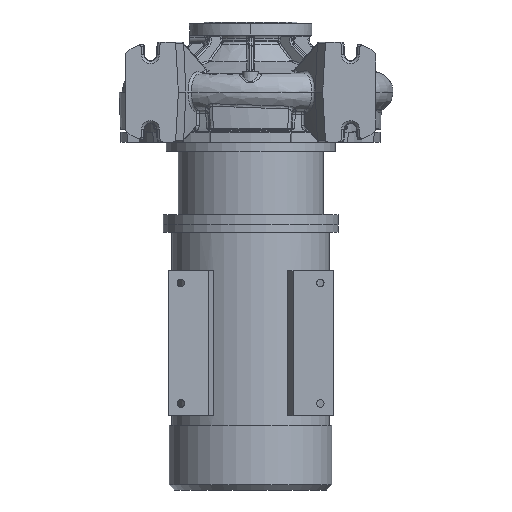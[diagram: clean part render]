
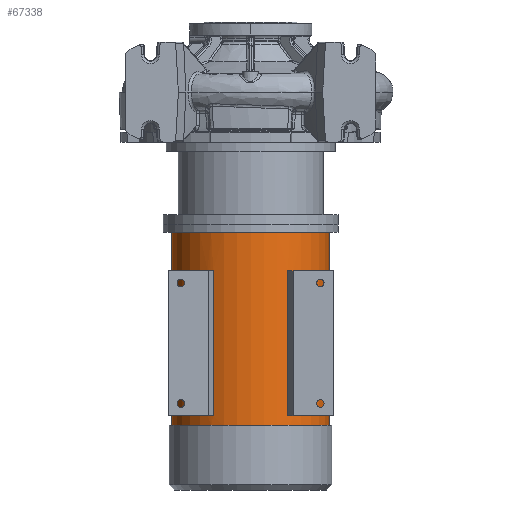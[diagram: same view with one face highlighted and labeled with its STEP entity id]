
A CAD part, front view. The second image highlights one B-rep face of the part: STEP entity #67338.
In plain terms, the highlighted cylindrical face has radius 157.5 mm (diameter 315 mm), a partial arc.
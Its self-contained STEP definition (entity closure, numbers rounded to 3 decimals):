
#1291 = ORIENTED_EDGE ( 'NONE', *, *, #35918, .T. ) ;
#1352 = EDGE_LOOP ( 'NONE', ( #90240, #71976, #87561, #42502 ) ) ;
#1983 = CIRCLE ( 'NONE', #36071, 157.5 ) ;
#2699 = EDGE_CURVE ( 'NONE', #88704, #29702, #87474, .T. ) ;
#3376 = CARTESIAN_POINT ( 'NONE',  ( 157.5, 0., -666.8 ) ) ;
#3870 = VECTOR ( 'NONE', #59922, 1000. ) ;
#4071 = EDGE_CURVE ( 'NONE', #76882, #17348, #8045, .T. ) ;
#4202 = EDGE_LOOP ( 'NONE', ( #74825, #89623, #30327, #1291 ) ) ;
#5739 = LINE ( 'NONE', #31826, #58210 ) ;
#7449 = CIRCLE ( 'NONE', #51731, 157.5 ) ;
#7463 = CIRCLE ( 'NONE', #23800, 157.5 ) ;
#8045 = CIRCLE ( 'NONE', #38496, 157.5 ) ;
#10935 = DIRECTION ( 'NONE',  ( 0., 0., -1. ) ) ;
#10937 = DIRECTION ( 'NONE',  ( 0., 0., 1. ) ) ;
#11408 = CARTESIAN_POINT ( 'NONE',  ( 86.091, -131.889, -357.3 ) ) ;
#11541 = CARTESIAN_POINT ( 'NONE',  ( 0., 0., -357.3 ) ) ;
#12059 = CARTESIAN_POINT ( 'NONE',  ( -86.091, -131.889, -795.8 ) ) ;
#13233 = DIRECTION ( 'NONE',  ( 0., 0., -1. ) ) ;
#13844 = CARTESIAN_POINT ( 'NONE',  ( -157.5, 0., -795.8 ) ) ;
#14001 = CIRCLE ( 'NONE', #52394, 157.5 ) ;
#14153 = EDGE_CURVE ( 'NONE', #34200, #88704, #5739, .T. ) ;
#15236 = LINE ( 'NONE', #17016, #46502 ) ;
#15349 = FACE_BOUND ( 'NONE', #4202, .T. ) ;
#17016 = CARTESIAN_POINT ( 'NONE',  ( 157.5, 0., -795.8 ) ) ;
#17348 = VERTEX_POINT ( 'NONE', #60041 ) ;
#18679 = FACE_OUTER_BOUND ( 'NONE', #1352, .T. ) ;
#18712 = CARTESIAN_POINT ( 'NONE',  ( -86.091, -131.889, -647.3 ) ) ;
#19051 = DIRECTION ( 'NONE',  ( 0., 0., -1. ) ) ;
#19676 = DIRECTION ( 'NONE',  ( -1., 0., 0. ) ) ;
#20801 = VERTEX_POINT ( 'NONE', #44738 ) ;
#22552 = DIRECTION ( 'NONE',  ( 0., 0., -1. ) ) ;
#22947 = VECTOR ( 'NONE', #13233, 1000. ) ;
#23181 = CYLINDRICAL_SURFACE ( 'NONE', #43734, 157.5 ) ;
#23199 = VECTOR ( 'NONE', #34243, 1000. ) ;
#23800 = AXIS2_PLACEMENT_3D ( 'NONE', #11541, #10935, #40279 ) ;
#24311 = ORIENTED_EDGE ( 'NONE', *, *, #68564, .F. ) ;
#25437 = FACE_BOUND ( 'NONE', #68138, .T. ) ;
#25751 = CARTESIAN_POINT ( 'NONE',  ( 74.479, -138.777, -647.3 ) ) ;
#25826 = EDGE_CURVE ( 'NONE', #75848, #20801, #7449, .T. ) ;
#26644 = CARTESIAN_POINT ( 'NONE',  ( -74.479, -138.777, -647.3 ) ) ;
#27017 = DIRECTION ( 'NONE',  ( -1., 0., 0. ) ) ;
#27497 = CARTESIAN_POINT ( 'NONE',  ( 86.091, -131.889, -647.3 ) ) ;
#28555 = EDGE_CURVE ( 'NONE', #34200, #49205, #14001, .T. ) ;
#29702 = VERTEX_POINT ( 'NONE', #11408 ) ;
#30327 = ORIENTED_EDGE ( 'NONE', *, *, #2699, .T. ) ;
#31826 = CARTESIAN_POINT ( 'NONE',  ( 74.479, -138.777, -795.8 ) ) ;
#33563 = VERTEX_POINT ( 'NONE', #70314 ) ;
#33878 = DIRECTION ( 'NONE',  ( 0., 0., -1. ) ) ;
#34152 = ORIENTED_EDGE ( 'NONE', *, *, #76361, .T. ) ;
#34200 = VERTEX_POINT ( 'NONE', #25751 ) ;
#34243 = DIRECTION ( 'NONE',  ( 0., 0., -1. ) ) ;
#34437 = CARTESIAN_POINT ( 'NONE',  ( 74.479, -138.777, -357.3 ) ) ;
#35918 = EDGE_CURVE ( 'NONE', #29702, #49205, #48550, .T. ) ;
#36071 = AXIS2_PLACEMENT_3D ( 'NONE', #58410, #22552, #43757 ) ;
#36452 = VERTEX_POINT ( 'NONE', #85775 ) ;
#38130 = CARTESIAN_POINT ( 'NONE',  ( 0., 0., -647.3 ) ) ;
#38285 = DIRECTION ( 'NONE',  ( 0., 0., -1. ) ) ;
#38496 = AXIS2_PLACEMENT_3D ( 'NONE', #76473, #19051, #19676 ) ;
#40279 = DIRECTION ( 'NONE',  ( 1., 0., 0. ) ) ;
#42502 = ORIENTED_EDGE ( 'NONE', *, *, #25826, .F. ) ;
#43734 = AXIS2_PLACEMENT_3D ( 'NONE', #68822, #76009, #83173 ) ;
#43757 = DIRECTION ( 'NONE',  ( 1., 0., 0. ) ) ;
#44591 = DIRECTION ( 'NONE',  ( 0., 0., 1. ) ) ;
#44738 = CARTESIAN_POINT ( 'NONE',  ( -157.5, 0., -666.8 ) ) ;
#45175 = VECTOR ( 'NONE', #51848, 1000. ) ;
#45628 = CARTESIAN_POINT ( 'NONE',  ( 86.091, -131.889, -795.8 ) ) ;
#46502 = VECTOR ( 'NONE', #38285, 1000. ) ;
#48550 = LINE ( 'NONE', #45628, #3870 ) ;
#49205 = VERTEX_POINT ( 'NONE', #27497 ) ;
#49638 = LINE ( 'NONE', #92058, #45175 ) ;
#49811 = EDGE_CURVE ( 'NONE', #76882, #75848, #15236, .T. ) ;
#51731 = AXIS2_PLACEMENT_3D ( 'NONE', #62255, #33878, #27017 ) ;
#51749 = DIRECTION ( 'NONE',  ( -1., 0., 0. ) ) ;
#51848 = DIRECTION ( 'NONE',  ( 0., 0., 1. ) ) ;
#52394 = AXIS2_PLACEMENT_3D ( 'NONE', #38130, #10937, #66532 ) ;
#52717 = EDGE_CURVE ( 'NONE', #17348, #20801, #70910, .T. ) ;
#58210 = VECTOR ( 'NONE', #60770, 1000. ) ;
#58410 = CARTESIAN_POINT ( 'NONE',  ( 0., 0., -647.3 ) ) ;
#59922 = DIRECTION ( 'NONE',  ( 0., 0., -1. ) ) ;
#60041 = CARTESIAN_POINT ( 'NONE',  ( -157.5, 0., -280.8 ) ) ;
#60770 = DIRECTION ( 'NONE',  ( 0., 0., 1. ) ) ;
#61101 = LINE ( 'NONE', #12059, #23199 ) ;
#62255 = CARTESIAN_POINT ( 'NONE',  ( 0., 0., -666.8 ) ) ;
#65525 = CARTESIAN_POINT ( 'NONE',  ( 0., 0., -357.3 ) ) ;
#65921 = ORIENTED_EDGE ( 'NONE', *, *, #69989, .F. ) ;
#66532 = DIRECTION ( 'NONE',  ( -1., 0., 0. ) ) ;
#67338 = ADVANCED_FACE ( 'NONE', ( #18679, #15349, #25437 ), #23181, .T. ) ;
#68138 = EDGE_LOOP ( 'NONE', ( #73920, #34152, #65921, #24311 ) ) ;
#68564 = EDGE_CURVE ( 'NONE', #36452, #33563, #7463, .T. ) ;
#68822 = CARTESIAN_POINT ( 'NONE',  ( 0., 0., -795.8 ) ) ;
#69989 = EDGE_CURVE ( 'NONE', #33563, #80679, #61101, .T. ) ;
#70314 = CARTESIAN_POINT ( 'NONE',  ( -86.091, -131.889, -357.3 ) ) ;
#70617 = VERTEX_POINT ( 'NONE', #26644 ) ;
#70910 = LINE ( 'NONE', #13844, #22947 ) ;
#71976 = ORIENTED_EDGE ( 'NONE', *, *, #4071, .T. ) ;
#73920 = ORIENTED_EDGE ( 'NONE', *, *, #85257, .F. ) ;
#74825 = ORIENTED_EDGE ( 'NONE', *, *, #28555, .F. ) ;
#75848 = VERTEX_POINT ( 'NONE', #3376 ) ;
#76009 = DIRECTION ( 'NONE',  ( 0., 0., -1. ) ) ;
#76361 = EDGE_CURVE ( 'NONE', #70617, #80679, #1983, .T. ) ;
#76473 = CARTESIAN_POINT ( 'NONE',  ( 0., 0., -280.8 ) ) ;
#76882 = VERTEX_POINT ( 'NONE', #87919 ) ;
#80679 = VERTEX_POINT ( 'NONE', #18712 ) ;
#83173 = DIRECTION ( 'NONE',  ( -1., 0., 0. ) ) ;
#85257 = EDGE_CURVE ( 'NONE', #70617, #36452, #49638, .T. ) ;
#85775 = CARTESIAN_POINT ( 'NONE',  ( -74.479, -138.777, -357.3 ) ) ;
#87474 = CIRCLE ( 'NONE', #88608, 157.5 ) ;
#87561 = ORIENTED_EDGE ( 'NONE', *, *, #52717, .T. ) ;
#87919 = CARTESIAN_POINT ( 'NONE',  ( 157.5, 0., -280.8 ) ) ;
#88608 = AXIS2_PLACEMENT_3D ( 'NONE', #65525, #44591, #51749 ) ;
#88704 = VERTEX_POINT ( 'NONE', #34437 ) ;
#89623 = ORIENTED_EDGE ( 'NONE', *, *, #14153, .T. ) ;
#90240 = ORIENTED_EDGE ( 'NONE', *, *, #49811, .F. ) ;
#92058 = CARTESIAN_POINT ( 'NONE',  ( -74.479, -138.777, -795.8 ) ) ;
